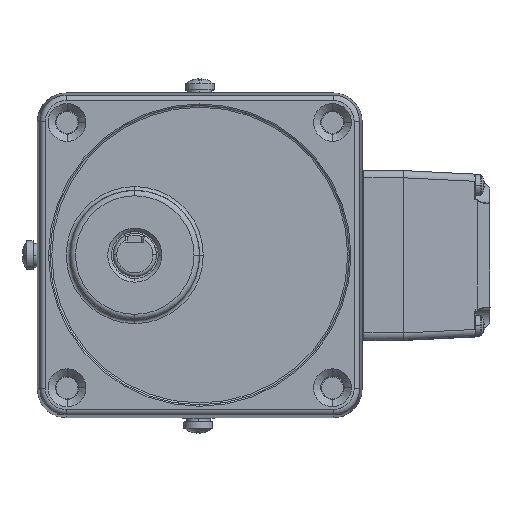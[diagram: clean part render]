
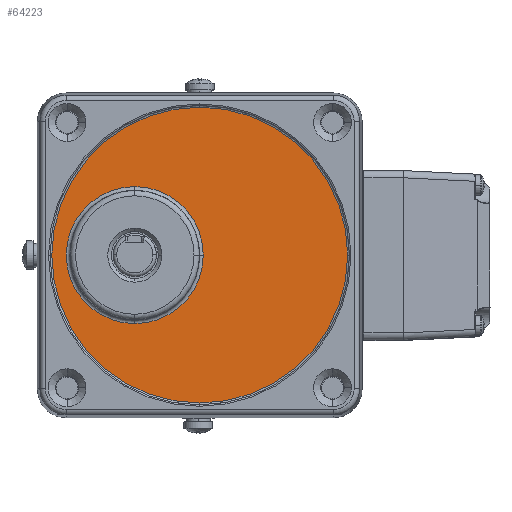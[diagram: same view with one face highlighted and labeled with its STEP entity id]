
A CAD part, top view. The second image highlights one B-rep face of the part: STEP entity #64223.
In plain terms, the highlighted planar face has unit normal (0, 0, 1) as drawn and (1, 0, 0) by its records, which use the part's own axes.
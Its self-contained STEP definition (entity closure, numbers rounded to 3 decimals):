
#1622 = AXIS2_PLACEMENT_3D ( 'NONE', #26492, #51246, #46905 ) ;
#3599 = CARTESIAN_POINT ( 'NONE',  ( 2679.792, -775.157, 0. ) ) ;
#3679 = CIRCLE ( 'NONE', #64536, 40.991 ) ;
#4789 = VERTEX_POINT ( 'NONE', #20689 ) ;
#5513 = VERTEX_POINT ( 'NONE', #11714 ) ;
#5966 = EDGE_CURVE ( 'NONE', #5513, #4789, #54420, .T. ) ;
#6642 = DIRECTION ( 'NONE',  ( 0., 0., -1. ) ) ;
#7452 = ORIENTED_EDGE ( 'NONE', *, *, #50217, .F. ) ;
#7476 = DIRECTION ( 'NONE',  ( 0., 0., 1. ) ) ;
#7866 = CARTESIAN_POINT ( 'NONE',  ( 2679.792, -793.157, 18.983 ) ) ;
#10504 = DIRECTION ( 'NONE',  ( -1., 0., 0. ) ) ;
#11583 = CIRCLE ( 'NONE', #37196, 40.991 ) ;
#11638 = CARTESIAN_POINT ( 'NONE',  ( 2679.792, -793.157, 0. ) ) ;
#11714 = CARTESIAN_POINT ( 'NONE',  ( 2679.792, -793.157, -18.983 ) ) ;
#12504 = EDGE_CURVE ( 'NONE', #15722, #20642, #11583, .T. ) ;
#13031 = CARTESIAN_POINT ( 'NONE',  ( 2679.792, -734.166, 0. ) ) ;
#15722 = VERTEX_POINT ( 'NONE', #62557 ) ;
#16821 = CARTESIAN_POINT ( 'NONE',  ( 2679.792, -793.157, 0. ) ) ;
#16875 = DIRECTION ( 'NONE',  ( -1., 0., 0. ) ) ;
#19168 = ORIENTED_EDGE ( 'NONE', *, *, #12504, .F. ) ;
#20642 = VERTEX_POINT ( 'NONE', #13031 ) ;
#20689 = CARTESIAN_POINT ( 'NONE',  ( 2679.792, -774.175, 0. ) ) ;
#23780 = VERTEX_POINT ( 'NONE', #7866 ) ;
#23988 = DIRECTION ( 'NONE',  ( 1., 0., 0. ) ) ;
#24324 = CARTESIAN_POINT ( 'NONE',  ( 2679.792, -775.157, 0. ) ) ;
#24839 = CIRCLE ( 'NONE', #59035, 40.991 ) ;
#26492 = CARTESIAN_POINT ( 'NONE',  ( 2679.792, -793.157, 0. ) ) ;
#26558 = ORIENTED_EDGE ( 'NONE', *, *, #5966, .F. ) ;
#26785 = CARTESIAN_POINT ( 'NONE',  ( 2679.792, -775.157, -40.991 ) ) ;
#29942 = ORIENTED_EDGE ( 'NONE', *, *, #65544, .F. ) ;
#32027 = DIRECTION ( 'NONE',  ( 1., 0., 0. ) ) ;
#36552 = DIRECTION ( 'NONE',  ( 0., 0., 1. ) ) ;
#37196 = AXIS2_PLACEMENT_3D ( 'NONE', #51988, #16875, #7476 ) ;
#37855 = DIRECTION ( 'NONE',  ( 0., 0., 1. ) ) ;
#39045 = FACE_OUTER_BOUND ( 'NONE', #56267, .T. ) ;
#40974 = CARTESIAN_POINT ( 'NONE',  ( 2679.792, -775.157, 0. ) ) ;
#42191 = CIRCLE ( 'NONE', #1622, 18.983 ) ;
#44392 = DIRECTION ( 'NONE',  ( 0., 1., 0. ) ) ;
#44726 = DIRECTION ( 'NONE',  ( -1., 0., 0. ) ) ;
#46260 = DIRECTION ( 'NONE',  ( 1., 0., 0. ) ) ;
#46905 = DIRECTION ( 'NONE',  ( 0., 0., -1. ) ) ;
#48037 = EDGE_CURVE ( 'NONE', #20642, #60955, #3679, .T. ) ;
#50120 = EDGE_CURVE ( 'NONE', #23780, #5513, #50741, .T. ) ;
#50217 = EDGE_CURVE ( 'NONE', #4789, #23780, #42191, .T. ) ;
#50741 = CIRCLE ( 'NONE', #64630, 18.983 ) ;
#51246 = DIRECTION ( 'NONE',  ( 1., 0., 0. ) ) ;
#51988 = CARTESIAN_POINT ( 'NONE',  ( 2679.792, -775.157, 0. ) ) ;
#52316 = EDGE_LOOP ( 'NONE', ( #26558, #66059, #7452 ) ) ;
#52636 = AXIS2_PLACEMENT_3D ( 'NONE', #3599, #23988, #44392 ) ;
#54405 = PLANE ( 'NONE',  #52636 ) ;
#54420 = CIRCLE ( 'NONE', #59777, 18.983 ) ;
#56267 = EDGE_LOOP ( 'NONE', ( #29942, #56923, #19168 ) ) ;
#56923 = ORIENTED_EDGE ( 'NONE', *, *, #48037, .F. ) ;
#59035 = AXIS2_PLACEMENT_3D ( 'NONE', #24324, #44726, #65114 ) ;
#59448 = FACE_BOUND ( 'NONE', #52316, .T. ) ;
#59777 = AXIS2_PLACEMENT_3D ( 'NONE', #11638, #32027, #6642 ) ;
#60955 = VERTEX_POINT ( 'NONE', #26785 ) ;
#62557 = CARTESIAN_POINT ( 'NONE',  ( 2679.792, -775.157, 40.991 ) ) ;
#64223 = ADVANCED_FACE ( 'NONE', ( #39045, #59448 ), #54405, .T. ) ;
#64536 = AXIS2_PLACEMENT_3D ( 'NONE', #40974, #10504, #37855 ) ;
#64630 = AXIS2_PLACEMENT_3D ( 'NONE', #16821, #46260, #36552 ) ;
#65114 = DIRECTION ( 'NONE',  ( 0., 0., -1. ) ) ;
#65544 = EDGE_CURVE ( 'NONE', #60955, #15722, #24839, .T. ) ;
#66059 = ORIENTED_EDGE ( 'NONE', *, *, #50120, .F. ) ;
